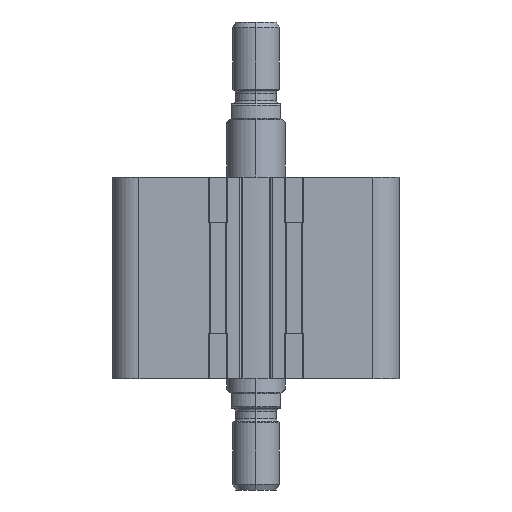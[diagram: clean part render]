
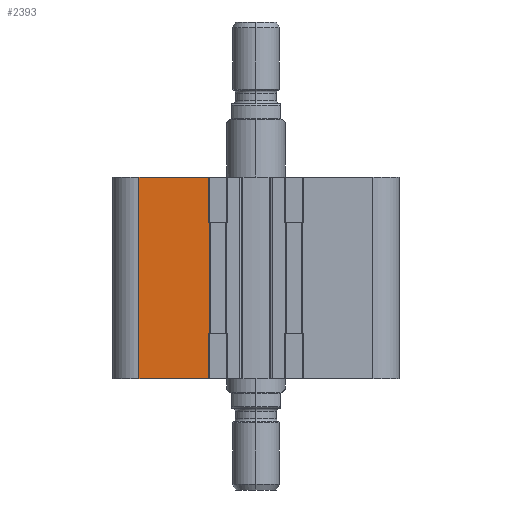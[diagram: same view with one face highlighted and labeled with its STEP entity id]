
A CAD part, left-side view. The second image highlights one B-rep face of the part: STEP entity #2393.
In plain terms, the highlighted planar face has unit normal (-1, 0, 0).
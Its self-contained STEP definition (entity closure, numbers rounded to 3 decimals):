
#163 = EDGE_CURVE ( 'NONE', #11814, #7029, #584, .T. ) ;
#584 = LINE ( 'NONE', #12062, #589 ) ;
#589 = VECTOR ( 'NONE', #12067, 1000. ) ;
#791 = LINE ( 'NONE', #1198, #797 ) ;
#792 = LINE ( 'NONE', #1203, #795 ) ;
#795 = VECTOR ( 'NONE', #1205, 1000. ) ;
#797 = VECTOR ( 'NONE', #1206, 1000. ) ;
#1198 = CARTESIAN_POINT ( 'NONE',  ( -49., 16.2, 178.493 ) ) ;
#1203 = CARTESIAN_POINT ( 'NONE',  ( -49., 40., 38. ) ) ;
#1205 = DIRECTION ( 'NONE',  ( 0., 0., -1. ) ) ;
#1206 = DIRECTION ( 'NONE',  ( 0., 0., -1. ) ) ;
#1328 = EDGE_CURVE ( 'NONE', #11815, #18116, #792, .T. ) ;
#1329 = EDGE_CURVE ( 'NONE', #7030, #18117, #791, .T. ) ;
#2393 = ADVANCED_FACE ( 'NONE', ( #16876 ), #15620, .F. ) ;
#2714 = CARTESIAN_POINT ( 'NONE',  ( -49., 16.2, 53.5 ) ) ;
#2715 = CARTESIAN_POINT ( 'NONE',  ( -49., 40., 53.5 ) ) ;
#2789 = CARTESIAN_POINT ( 'NONE',  ( -49., 15.875, 38. ) ) ;
#2790 = DIRECTION ( 'NONE',  ( 0., 0., 1. ) ) ;
#2805 = CARTESIAN_POINT ( 'NONE',  ( -49., 49., 38. ) ) ;
#2806 = DIRECTION ( 'NONE',  ( 0., -1., 0. ) ) ;
#2892 = CARTESIAN_POINT ( 'NONE',  ( -49., 49., 0. ) ) ;
#2893 = DIRECTION ( 'NONE',  ( 0., -1., 0. ) ) ;
#2998 = LINE ( 'NONE', #2789, #3000 ) ;
#3000 = VECTOR ( 'NONE', #2790, 1000. ) ;
#3008 = LINE ( 'NONE', #2805, #3010 ) ;
#3010 = VECTOR ( 'NONE', #2806, 1000. ) ;
#3054 = LINE ( 'NONE', #2892, #3057 ) ;
#3057 = VECTOR ( 'NONE', #2893, 1000. ) ;
#7018 = VERTEX_POINT ( 'NONE', #12892 ) ;
#7021 = VERTEX_POINT ( 'NONE', #12895 ) ;
#7029 = VERTEX_POINT ( 'NONE', #12903 ) ;
#7030 = VERTEX_POINT ( 'NONE', #12904 ) ;
#7295 = EDGE_LOOP ( 'NONE', ( #14607, #14608, #14609, #14610, #14611, #14612, #14613, #14614 ) ) ;
#8114 = AXIS2_PLACEMENT_3D ( 'NONE', #15616, #15622, #15623 ) ;
#9804 = LINE ( 'NONE', #13631, #9806 ) ;
#9806 = VECTOR ( 'NONE', #13632, 1000. ) ;
#10009 = LINE ( 'NONE', #13995, #10011 ) ;
#10011 = VECTOR ( 'NONE', #13996, 1000. ) ;
#10405 = EDGE_CURVE ( 'NONE', #18117, #18116, #9804, .T. ) ;
#10547 = EDGE_CURVE ( 'NONE', #11815, #11814, #10009, .T. ) ;
#11814 = VERTEX_POINT ( 'NONE', #2714 ) ;
#11815 = VERTEX_POINT ( 'NONE', #2715 ) ;
#12062 = CARTESIAN_POINT ( 'NONE',  ( -49., 16.2, 178.493 ) ) ;
#12067 = DIRECTION ( 'NONE',  ( 0., 0., -1. ) ) ;
#12233 = EDGE_CURVE ( 'NONE', #7018, #7021, #2998, .T. ) ;
#12240 = EDGE_CURVE ( 'NONE', #7029, #7021, #3008, .T. ) ;
#12271 = EDGE_CURVE ( 'NONE', #7030, #7018, #3054, .T. ) ;
#12892 = CARTESIAN_POINT ( 'NONE',  ( -49., 15.875, 0. ) ) ;
#12895 = CARTESIAN_POINT ( 'NONE',  ( -49., 15.875, 38. ) ) ;
#12903 = CARTESIAN_POINT ( 'NONE',  ( -49., 16.2, 38. ) ) ;
#12904 = CARTESIAN_POINT ( 'NONE',  ( -49., 16.2, 0. ) ) ;
#13631 = CARTESIAN_POINT ( 'NONE',  ( -49., 49., -15.5 ) ) ;
#13632 = DIRECTION ( 'NONE',  ( 0., 1., 0. ) ) ;
#13995 = CARTESIAN_POINT ( 'NONE',  ( -49., 49., 53.5 ) ) ;
#13996 = DIRECTION ( 'NONE',  ( 0., -1., 0. ) ) ;
#14607 = ORIENTED_EDGE ( 'NONE', *, *, #1328, .T. ) ;
#14608 = ORIENTED_EDGE ( 'NONE', *, *, #10405, .F. ) ;
#14609 = ORIENTED_EDGE ( 'NONE', *, *, #1329, .F. ) ;
#14610 = ORIENTED_EDGE ( 'NONE', *, *, #12271, .T. ) ;
#14611 = ORIENTED_EDGE ( 'NONE', *, *, #12233, .T. ) ;
#14612 = ORIENTED_EDGE ( 'NONE', *, *, #12240, .F. ) ;
#14613 = ORIENTED_EDGE ( 'NONE', *, *, #163, .F. ) ;
#14614 = ORIENTED_EDGE ( 'NONE', *, *, #10547, .F. ) ;
#15616 = CARTESIAN_POINT ( 'NONE',  ( -49., 49., 38. ) ) ;
#15620 = PLANE ( 'NONE',  #8114 ) ;
#15622 = DIRECTION ( 'NONE',  ( 1., 0., 0. ) ) ;
#15623 = DIRECTION ( 'NONE',  ( 0., 1., 0. ) ) ;
#16876 = FACE_OUTER_BOUND ( 'NONE', #7295, .T. ) ;
#17860 = CARTESIAN_POINT ( 'NONE',  ( -49., 40., -15.5 ) ) ;
#17861 = CARTESIAN_POINT ( 'NONE',  ( -49., 16.2, -15.5 ) ) ;
#18116 = VERTEX_POINT ( 'NONE', #17860 ) ;
#18117 = VERTEX_POINT ( 'NONE', #17861 ) ;
